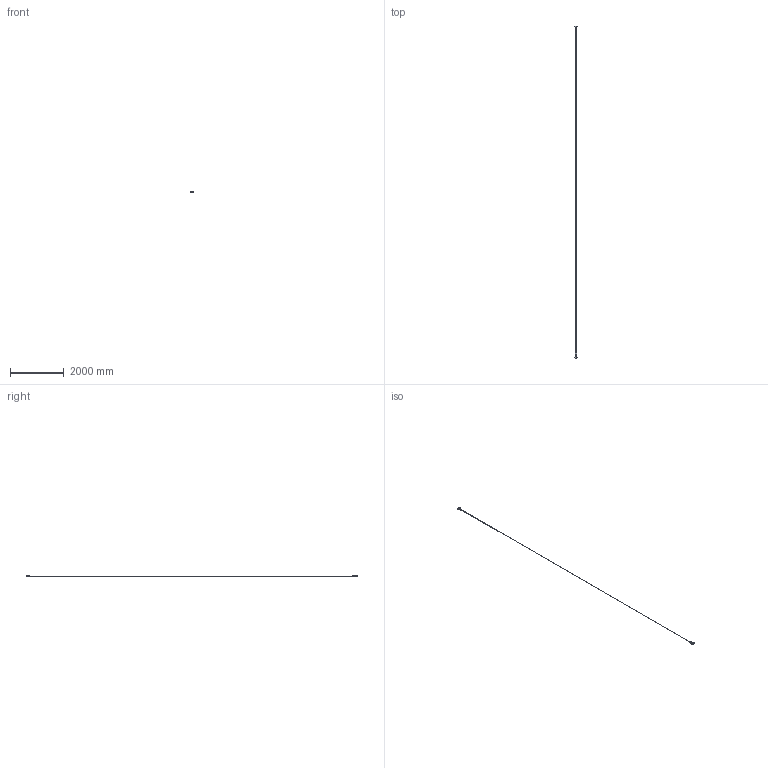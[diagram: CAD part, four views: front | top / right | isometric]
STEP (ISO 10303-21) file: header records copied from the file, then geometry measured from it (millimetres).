
FILE_DESCRIPTION(/* description */ (''),/* implementation_level */ '2;1');
FILE_NAME(/* name */ 'X:\PUBBLICA\X ALBERTO ZANARDI\FILE 3D X SITO\EU\FLASH\1924 - FLASH 12.stp',/* time_stamp */ '2020-02-26T12:27:07+01:00',/* author */ ('AC'),/* organization */ (''),/* preprocessor_version */ 'ST-DEVELOPER v18',/* originating_system */ 'Autodesk Inventor 2020',/* authorisation */ '');
FILE_SCHEMA (('AUTOMOTIVE_DESIGN { 1 0 10303 214 3 1 1 }'));
Length unit declared in the file: millimetre
Products named in the file (1): Parte7
Bounding box: 90 x 12313 x 53 mm (x, y, z)
Volume: 287925.3 mm3; surface area: 388050 mm2
Topology: 1 solids, 1 shells, 477 faces, 1261 edges, 762 vertices
Faces by surface type: plane 336, cylinder 139, cone 2
Full cylindrical faces by diameter (mm): 8 x10, 12 x2, 15 x1
Entity records: 15072 total; most frequent: CARTESIAN_POINT 2533, ORIENTED_EDGE 2506, DIRECTION 2499, EDGE_CURVE 1253, LINE 955, VECTOR 955, AXIS2_PLACEMENT_3D 772, VERTEX_POINT 750
